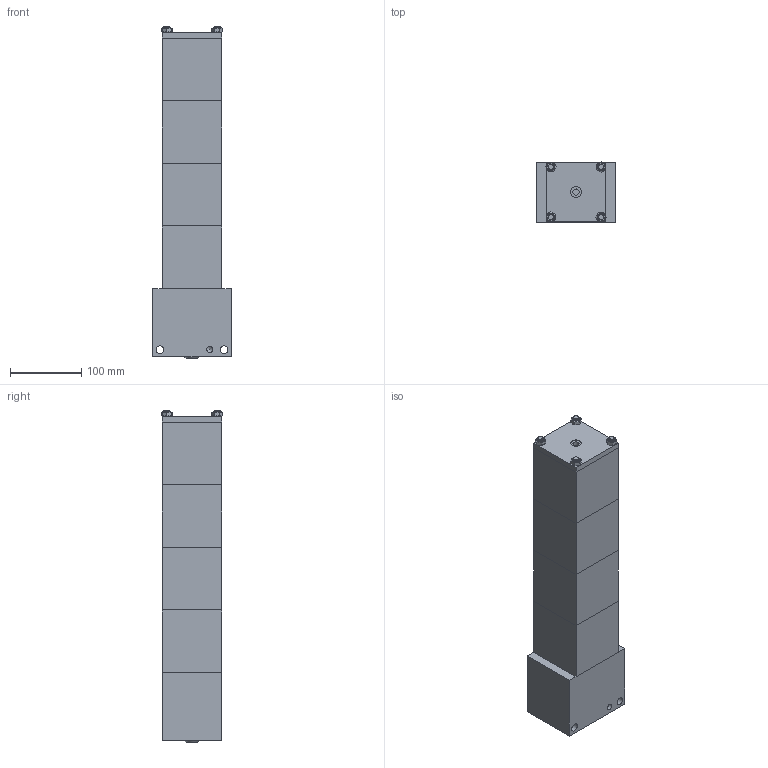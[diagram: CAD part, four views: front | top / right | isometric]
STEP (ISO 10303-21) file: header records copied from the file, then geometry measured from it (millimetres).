
FILE_DESCRIPTION((''),'2;1');
FILE_NAME('C:\VaultWork\Zeichnungen\Maßblätter\Multizylinder\M 75\M75-70\M01696-4-0 Maßblatt M75-5-70.stp','2012-06-06T16:04:42',('Sergeew'),(''),'Autodesk Inventor 2012','Autodesk Inventor 2012','');
FILE_SCHEMA(('AUTOMOTIVE_DESIGN { 1 0 10303 214 1 1 1 1 }'));
Length unit declared in the file: millimetre
Products named in the file (1): M01696-4-0 Maßblatt M75-5-70
Bounding box: 110 x 85.72 x 466.5 mm (x, y, z)
Volume: 3411665.2 mm3; surface area: 187496.3 mm2
Topology: 1 solids, 5 shells, 120 faces, 261 edges, 163 vertices
Faces by surface type: plane 72, cone 25, cylinder 22, torus 1
Full cylindrical faces by diameter (mm): 6.647 x5, 8 x8, 8.566 x2, 9 x4, 11 x2, 15 x1
Entity records: 2943 total; most frequent: CARTESIAN_POINT 559, DIRECTION 456, ORIENTED_EDGE 392, EDGE_CURVE 196, EDGE_LOOP 192, AXIS2_PLACEMENT_3D 187, VERTEX_POINT 146, FACE_OUTER_BOUND 120
